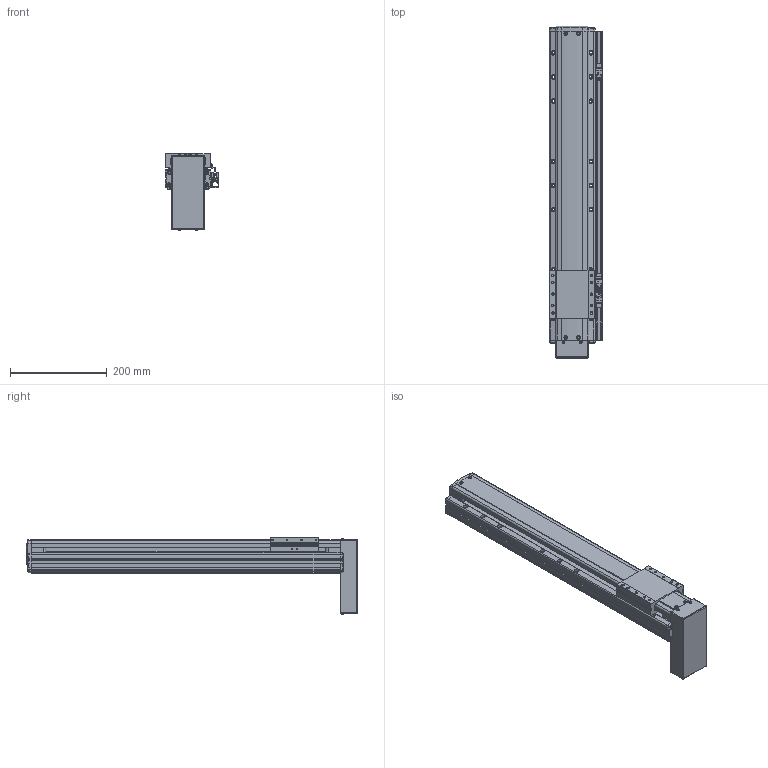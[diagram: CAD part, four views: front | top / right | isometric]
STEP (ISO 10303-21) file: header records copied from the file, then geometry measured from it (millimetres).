
FILE_DESCRIPTION(('STEP AP214'),'1');
FILE_NAME('Z:/Web/3D/PSA95/STP/PSA95-450 (3D)/PSA95ㅁㅁ-450PB+3SR.stp','2014-07-03T00:32:21',(' '),(' '),'Spatial InterOp 3D',' ',' ');
FILE_SCHEMA(('automotive_design'));
Length unit declared in the file: millimetre
Products named in the file (47): BASE; RRCV; 스크루 : Round - M4.0 x 10.0; 너트 : Square - M10.0 x 220.7419; RR1500; FRCV-090; 스크루 : Round - M4.0 x 6.0; SLBL-PA90; MTPL COVER; 스크루 : Round - M3.0 x 6.0; 1; 2; EE-SX674; SBK-SX674-352; M3.0 x 6.0; SRL-16x17-380L; SGD-PA95; 스크루 : Round - M3.0 x 8.0
Bounding box: 111 x 687.5 x 159.57 mm (x, y, z)
Volume: 3983639.4 mm3; surface area: 494454.4 mm2
Topology: 47 solids, 47 shells, 2514 faces, 6661 edges, 4279 vertices
Faces by surface type: plane 1483, cylinder 693, cone 230, sphere 70, bspline 24, torus 14
Entity records: 100542 total; most frequent: CARTESIAN_POINT 16496, DIRECTION 13340, ORIENTED_EDGE 13066, EDGE_CURVE 6533, LINE 4466, VECTOR 4466, AXIS2_PLACEMENT_3D 4437, VERTEX_POINT 4279
